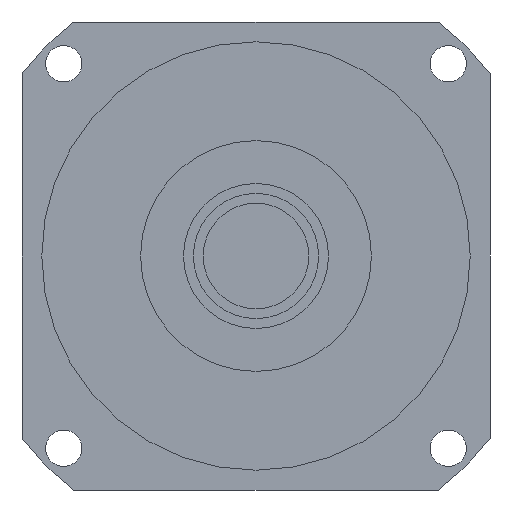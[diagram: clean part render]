
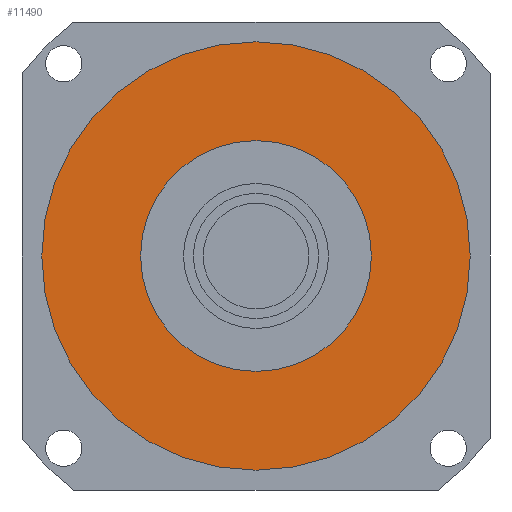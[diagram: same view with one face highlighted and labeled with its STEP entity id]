
A CAD part, left-side view. The second image highlights one B-rep face of the part: STEP entity #11490.
In plain terms, the highlighted planar face has unit normal (-1, 0, 0) as drawn and (0, 0, -1) by its records, which use the part's own axes.
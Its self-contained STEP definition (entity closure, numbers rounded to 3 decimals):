
#10930=CARTESIAN_POINT('',(-35.,0.,-80.2));
#10940=VERTEX_POINT('',#10930);
#10970=CARTESIAN_POINT('',(0.,0.,
-80.2));
#10980=DIRECTION('',(0.,0.,1.));
#10990=DIRECTION('',(0.,1.,0.));
#11000=AXIS2_PLACEMENT_3D('',#10970,#10980,#10990);
#11010=CIRCLE('',#11000,35.);
#11020=CARTESIAN_POINT('',(35.,0.,-80.2));
#11030=VERTEX_POINT('',#11020);
#11040=EDGE_CURVE('',#10940,#11030,#11010,.T.);
#11160=CARTESIAN_POINT('',(0.,0.,
-80.2));
#11170=DIRECTION('',(0.,0.,1.));
#11180=DIRECTION('',(-1.,0.,0.));
#11190=AXIS2_PLACEMENT_3D('',#11160,#11170,#11180);
#11200=PLANE('',#11190);
#11210=ORIENTED_EDGE('',*,*,#11040,.T.);
#11220=CARTESIAN_POINT('',(0.,35.,-80.2));
#11230=VERTEX_POINT('',#11220);
#11240=EDGE_CURVE('',#11230,#10940,#11010,.T.);
#11250=ORIENTED_EDGE('',*,*,#11240,.T.);
#11260=EDGE_CURVE('',#11030,#11230,#11010,.T.);
#11270=ORIENTED_EDGE('',*,*,#11260,.T.);
#11280=EDGE_LOOP('',(#11270,#11250,#11210));
#11290=FACE_BOUND('',#11280,.T.);
#11300=CARTESIAN_POINT('',(0.,0.,
-80.2));
#11310=DIRECTION('',(0.,0.,1.));
#11320=DIRECTION('',(0.,1.,0.));
#11330=AXIS2_PLACEMENT_3D('',#11300,#11310,#11320);
#11340=CIRCLE('',#11330,65.);
#11350=CARTESIAN_POINT('',(0.,65.,-80.2));
#11360=VERTEX_POINT('',#11350);
#11370=CARTESIAN_POINT('',(-65.,0.,-80.2));
#11380=VERTEX_POINT('',#11370);
#11390=EDGE_CURVE('',#11360,#11380,#11340,.T.);
#11400=ORIENTED_EDGE('',*,*,#11390,.F.);
#11410=CARTESIAN_POINT('',(65.,0.,-80.2));
#11420=VERTEX_POINT('',#11410);
#11430=EDGE_CURVE('',#11380,#11420,#11340,.T.);
#11440=ORIENTED_EDGE('',*,*,#11430,.F.);
#11450=EDGE_CURVE('',#11420,#11360,#11340,.T.);
#11460=ORIENTED_EDGE('',*,*,#11450,.F.);
#11470=EDGE_LOOP('',(#11460,#11440,#11400));
#11480=FACE_OUTER_BOUND('',#11470,.T.);
#11490=ADVANCED_FACE('',(#11290,#11480),#11200,.F.);
